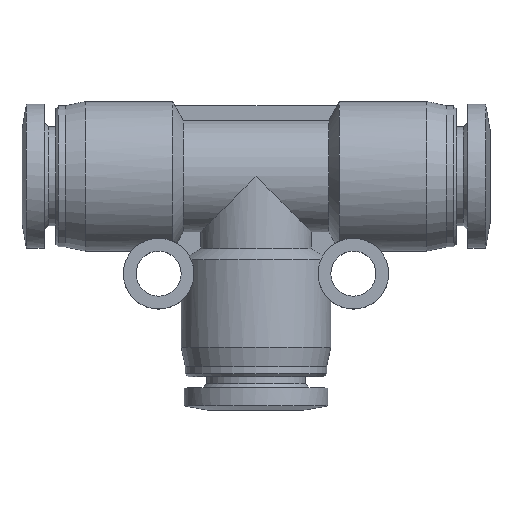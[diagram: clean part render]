
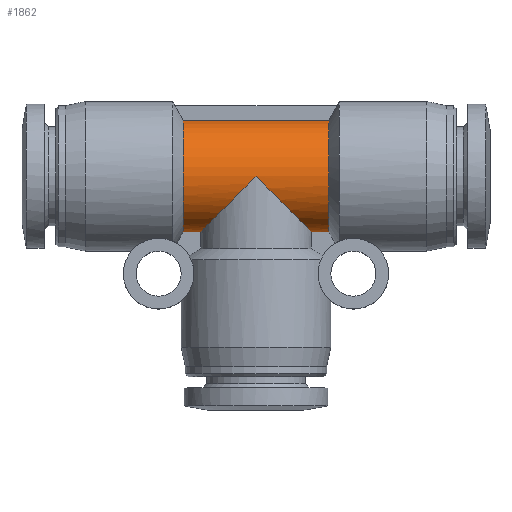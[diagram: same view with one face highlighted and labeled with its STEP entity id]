
A CAD part, top view. The second image highlights one B-rep face of the part: STEP entity #1862.
In plain terms, the highlighted cylindrical face has radius 4 mm (diameter 8 mm), a partial arc.
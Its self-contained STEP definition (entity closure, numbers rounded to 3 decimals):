
#31 = CARTESIAN_POINT ( 'NONE',  ( -5.149, 0., 0. ) ) ;
#35 = VECTOR ( 'NONE', #4116, 1000. ) ;
#40 = EDGE_CURVE ( 'NONE', #3454, #1770, #3710, .T. ) ;
#41 = VERTEX_POINT ( 'NONE', #46 ) ;
#46 = CARTESIAN_POINT ( 'NONE',  ( -3.929, -3.929, 0.75 ) ) ;
#86 = AXIS2_PLACEMENT_3D ( 'NONE', #2258, #2238, #1100 ) ;
#157 = DIRECTION ( 'NONE',  ( 1., 0., 0. ) ) ;
#183 = EDGE_CURVE ( 'NONE', #4047, #41, #1138, .T. ) ;
#215 = AXIS2_PLACEMENT_3D ( 'NONE', #31, #3863, #2884 ) ;
#225 = DIRECTION ( 'NONE',  ( -1., 0., 0. ) ) ;
#239 = VERTEX_POINT ( 'NONE', #3609 ) ;
#282 = ORIENTED_EDGE ( 'NONE', *, *, #812, .T. ) ;
#460 = CARTESIAN_POINT ( 'NONE',  ( 0., 0., 4. ) ) ;
#660 = ORIENTED_EDGE ( 'NONE', *, *, #1494, .T. ) ;
#724 = EDGE_CURVE ( 'NONE', #239, #4047, #2004, .T. ) ;
#762 = CARTESIAN_POINT ( 'NONE',  ( 3.553, -3.553, 2.721 ) ) ;
#782 = CARTESIAN_POINT ( 'NONE',  ( 3.929, -3.929, 0.75 ) ) ;
#787 = CARTESIAN_POINT ( 'NONE',  ( -5.149, -3.929, 0.75 ) ) ;
#812 = EDGE_CURVE ( 'NONE', #2902, #1973, #4096, .T. ) ;
#870 = ORIENTED_EDGE ( 'NONE', *, *, #2349, .T. ) ;
#907 = CARTESIAN_POINT ( 'NONE',  ( 5.149, 3.929, 0.75 ) ) ;
#943 = ORIENTED_EDGE ( 'NONE', *, *, #183, .T. ) ;
#1100 = DIRECTION ( 'NONE',  ( 0., 1., 0. ) ) ;
#1138 = LINE ( 'NONE', #787, #4396 ) ;
#1294 = LINE ( 'NONE', #1644, #35 ) ;
#1433 =( BOUNDED_CURVE ( )  B_SPLINE_CURVE ( 3, ( #1548, #4002, #1574, #460 ),
 .UNSPECIFIED., .F., .T. ) 
 B_SPLINE_CURVE_WITH_KNOTS ( ( 4, 4 ),
 ( 0.189, 1.571 ),
 .UNSPECIFIED. ) 
 CURVE ( )  GEOMETRIC_REPRESENTATION_ITEM ( )  RATIONAL_B_SPLINE_CURVE ( ( 1., 0.847, 0.847, 1. ) ) 
 REPRESENTATION_ITEM ( '' )  );
#1494 = EDGE_CURVE ( 'NONE', #3454, #239, #4033, .T. ) ;
#1548 = CARTESIAN_POINT ( 'NONE',  ( -3.929, -3.929, 0.75 ) ) ;
#1574 = CARTESIAN_POINT ( 'NONE',  ( -2.007, -2.007, 4. ) ) ;
#1644 = CARTESIAN_POINT ( 'NONE',  ( 3.929, -3.929, 0.75 ) ) ;
#1770 = VERTEX_POINT ( 'NONE', #4351 ) ;
#1861 = AXIS2_PLACEMENT_3D ( 'NONE', #2343, #157, #2667 ) ;
#1862 = ADVANCED_FACE ( 'NONE', ( #2891 ), #4309, .T. ) ;
#1973 = VERTEX_POINT ( 'NONE', #2935 ) ;
#2004 = CIRCLE ( 'NONE', #215, 4. ) ;
#2238 = DIRECTION ( 'NONE',  ( 1., 0., 0. ) ) ;
#2258 = CARTESIAN_POINT ( 'NONE',  ( 5.149, 0., 0. ) ) ;
#2288 = ORIENTED_EDGE ( 'NONE', *, *, #724, .T. ) ;
#2343 = CARTESIAN_POINT ( 'NONE',  ( 0., 0., 0. ) ) ;
#2349 = EDGE_CURVE ( 'NONE', #1973, #1770, #1294, .T. ) ;
#2517 = CARTESIAN_POINT ( 'NONE',  ( 0., 0., 4. ) ) ;
#2548 = DIRECTION ( 'NONE',  ( 1., 0., 0. ) ) ;
#2566 = ORIENTED_EDGE ( 'NONE', *, *, #4230, .T. ) ;
#2667 = DIRECTION ( 'NONE',  ( 0., 1., 0. ) ) ;
#2884 = DIRECTION ( 'NONE',  ( 0., 1., 0. ) ) ;
#2891 = FACE_OUTER_BOUND ( 'NONE', #3878, .T. ) ;
#2902 = VERTEX_POINT ( 'NONE', #4037 ) ;
#2935 = CARTESIAN_POINT ( 'NONE',  ( 3.929, -3.929, 0.75 ) ) ;
#3142 = CARTESIAN_POINT ( 'NONE',  ( -5.149, -3.929, 0.75 ) ) ;
#3223 = ORIENTED_EDGE ( 'NONE', *, *, #40, .F. ) ;
#3454 = VERTEX_POINT ( 'NONE', #4280 ) ;
#3609 = CARTESIAN_POINT ( 'NONE',  ( -5.149, 3.929, 0.75 ) ) ;
#3710 = CIRCLE ( 'NONE', #86, 4. ) ;
#3850 = VECTOR ( 'NONE', #225, 1000. ) ;
#3863 = DIRECTION ( 'NONE',  ( 1., 0., 0. ) ) ;
#3878 = EDGE_LOOP ( 'NONE', ( #870, #3223, #660, #2288, #943, #2566, #282 ) ) ;
#3929 = CARTESIAN_POINT ( 'NONE',  ( 2.007, -2.007, 4. ) ) ;
#4002 = CARTESIAN_POINT ( 'NONE',  ( -3.553, -3.553, 2.721 ) ) ;
#4033 = LINE ( 'NONE', #907, #3850 ) ;
#4037 = CARTESIAN_POINT ( 'NONE',  ( 0., 0., 4. ) ) ;
#4047 = VERTEX_POINT ( 'NONE', #3142 ) ;
#4096 =( BOUNDED_CURVE ( )  B_SPLINE_CURVE ( 3, ( #2517, #3929, #762, #782 ),
 .UNSPECIFIED., .F., .F. ) 
 B_SPLINE_CURVE_WITH_KNOTS ( ( 4, 4 ),
 ( 1.571, 2.953 ),
 .UNSPECIFIED. ) 
 CURVE ( )  GEOMETRIC_REPRESENTATION_ITEM ( )  RATIONAL_B_SPLINE_CURVE ( ( 1., 0.847, 0.847, 1. ) ) 
 REPRESENTATION_ITEM ( '' )  );
#4116 = DIRECTION ( 'NONE',  ( 1., 0., 0. ) ) ;
#4230 = EDGE_CURVE ( 'NONE', #41, #2902, #1433, .T. ) ;
#4280 = CARTESIAN_POINT ( 'NONE',  ( 5.149, 3.929, 0.75 ) ) ;
#4309 = CYLINDRICAL_SURFACE ( 'NONE', #1861, 4. ) ;
#4351 = CARTESIAN_POINT ( 'NONE',  ( 5.149, -3.929, 0.75 ) ) ;
#4396 = VECTOR ( 'NONE', #2548, 1000. ) ;
